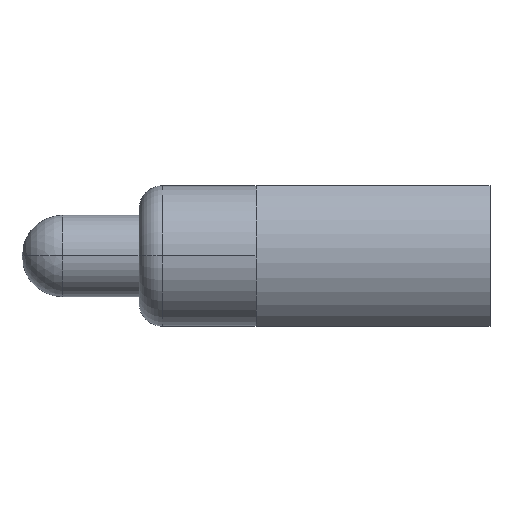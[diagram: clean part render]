
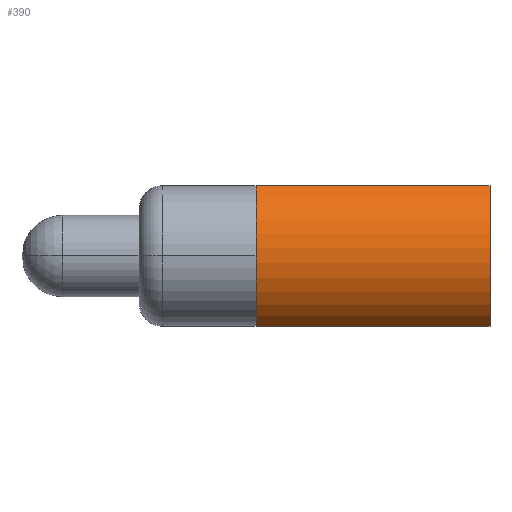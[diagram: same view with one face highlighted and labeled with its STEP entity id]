
A CAD part, top view. The second image highlights one B-rep face of the part: STEP entity #390.
In plain terms, the highlighted cylindrical face has radius 0.75 mm (diameter 1.5 mm), a partial arc.
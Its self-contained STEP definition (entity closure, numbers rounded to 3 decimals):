
#104=CARTESIAN_POINT('',(0.,0.,0.));
#105=DIRECTION('',(1.,0.,0.));
#106=DIRECTION('',(0.,0.8,0.6));
#107=AXIS2_PLACEMENT_3D('',#104,#105,#106);
#123=DIRECTION('',(1.,0.,0.));
#124=VECTOR('',#123,2.);
#125=CARTESIAN_POINT('',(0.,-0.6,0.45));
#126=LINE('',#125,#124);
#127=DIRECTION('',(1.,0.,0.));
#128=VECTOR('',#127,2.);
#129=CARTESIAN_POINT('',(0.,0.6,0.45));
#130=LINE('',#129,#128);
#152=CARTESIAN_POINT('',(2.,0.,0.));
#153=DIRECTION('',(1.,0.,0.));
#154=DIRECTION('',(0.,0.8,0.6));
#155=AXIS2_PLACEMENT_3D('',#152,#153,#154);
#175=CARTESIAN_POINT('',(0.,0.6,0.45));
#176=CARTESIAN_POINT('',(0.,-0.6,0.45));
#177=VERTEX_POINT('',#175);
#178=VERTEX_POINT('',#176);
#184=CARTESIAN_POINT('',(2.,0.6,0.45));
#186=VERTEX_POINT('',#184);
#187=CARTESIAN_POINT('',(2.,-0.6,0.45));
#188=VERTEX_POINT('',#187);
#377=CARTESIAN_POINT('',(0.,0.,0.));
#378=DIRECTION('',(1.,0.,0.));
#379=DIRECTION('',(0.,-1.,0.));
#380=AXIS2_PLACEMENT_3D('',#377,#378,#379);
#381=CYLINDRICAL_SURFACE('',#380,0.75);
#382=ORIENTED_EDGE('',*,*,#340,.F.);
#384=ORIENTED_EDGE('',*,*,#383,.T.);
#386=ORIENTED_EDGE('',*,*,#385,.T.);
#387=ORIENTED_EDGE('',*,*,#367,.F.);
#388=EDGE_LOOP('',(#382,#384,#386,#387));
#389=FACE_OUTER_BOUND('',#388,.F.);
#390=ADVANCED_FACE('',(#389),#381,.T.);
#108=CIRCLE('',#107,0.75);
#156=CIRCLE('',#155,0.75);
#340=EDGE_CURVE('',#177,#178,#108,.T.);
#367=EDGE_CURVE('',#178,#188,#126,.T.);
#383=EDGE_CURVE('',#177,#186,#130,.T.);
#385=EDGE_CURVE('',#186,#188,#156,.T.);
